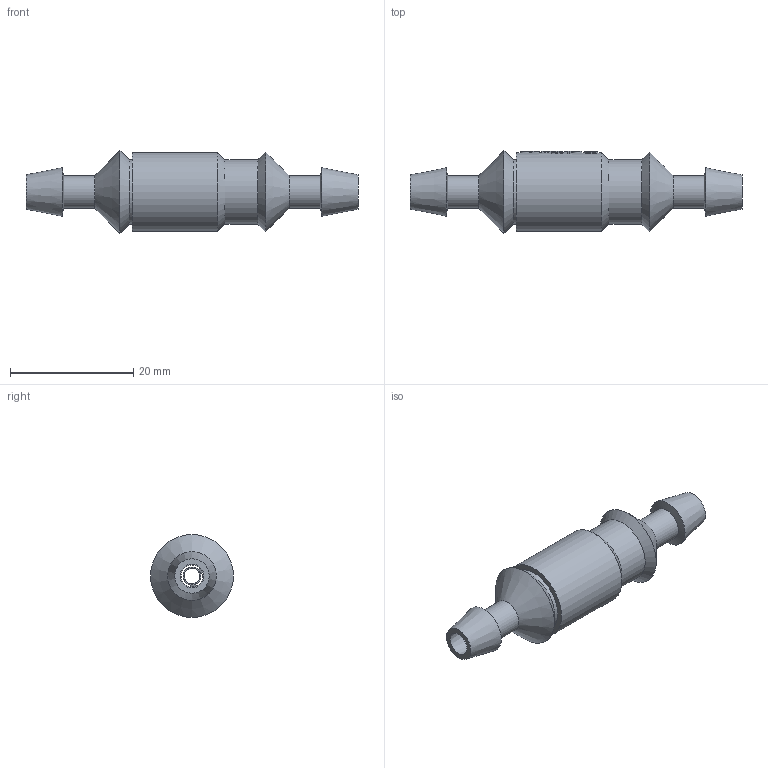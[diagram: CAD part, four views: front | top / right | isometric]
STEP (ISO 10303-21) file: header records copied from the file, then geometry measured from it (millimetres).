
FILE_DESCRIPTION(/* description */ (''),/* implementation_level */ '2;1');
FILE_NAME(/* name */ 'C:\Users\Hani\Desktop\work\LPA-04\LPA-04.stp',/* time_stamp */ '2021-07-23T20:59:44-07:00',/* author */ ('Hani'),/* organization */ (''),/* preprocessor_version */ 'ST-DEVELOPER v17',/* originating_system */ 'Autodesk Inventor 2019',/* authorisation */ '');
FILE_SCHEMA (('AUTOMOTIVE_DESIGN { 1 0 10303 214 3 1 1 }'));
Length unit declared in the file: inch
Products named in the file (4): LPA-04; LPA-04_1; LPA-04-Small; TERMINAL
Assembly tree (4 placements, depth 2):
  LPA-04
    LPA-04_1
    LPA-04-Small
    TERMINAL  x2
Bounding box: 53.85 x 13.46 x 13.46 mm (x, y, z)
Volume: 2132.9 mm3; surface area: 5044.3 mm2
Topology: 4 solids, 4 shells, 192 faces, 534 edges, 358 vertices
Faces by surface type: plane 73, bspline 67, cylinder 30, cone 22
Full cylindrical faces by diameter (mm): 2.54 x2, 2.896 x2, 3.556 x2, 5.334 x2, 6.096 x2, 8.636 x4, 10.414 x2, 10.922 x1, 12.7 x1
Entity records: 7714 total; most frequent: CARTESIAN_POINT 3233, ORIENTED_EDGE 998, DIRECTION 750, EDGE_CURVE 499, VERTEX_POINT 335, AXIS2_PLACEMENT_3D 264, LINE 222, VECTOR 222
